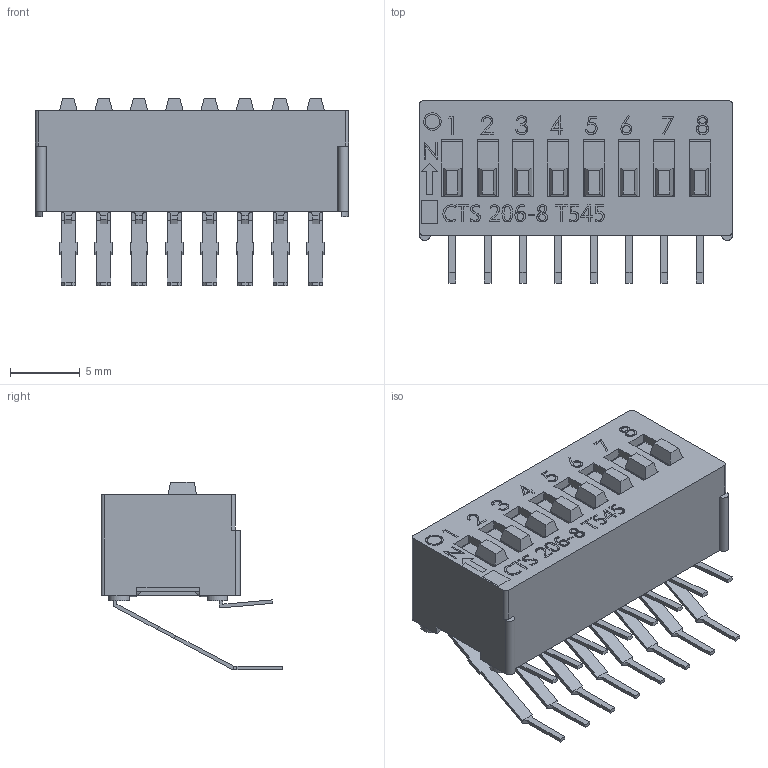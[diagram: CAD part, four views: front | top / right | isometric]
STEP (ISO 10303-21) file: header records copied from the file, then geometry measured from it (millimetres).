
FILE_DESCRIPTION (( 'STEP AP214' ), '1' );
FILE_NAME ('206-8RA.STEP', '2019-05-24T06:58:51', ( '' ), ( '' ), 'SwSTEP 2.0', 'SolidWorks 2019', '' );
FILE_SCHEMA (( 'AUTOMOTIVE_DESIGN' ));
Length unit declared in the file: millimetre
Products named in the file (4): 206-8RA pole assembly; 206-40-238-40-01(SPST-RA); 206-8RA; 206-56-014-35-01
Assembly tree (10 placements, depth 2):
  206-8RA
    206-40-238-40-01(SPST-RA)
    206-56-014-35-01  x8
    206-8RA pole assembly
Bounding box: 22.5 x 13.07 x 13.47 mm (x, y, z)
Volume: 1002 mm3; surface area: 3184 mm2
Topology: 10 solids, 10 shells, 985 faces, 2679 edges, 1772 vertices
Faces by surface type: plane 739, bspline 142, cylinder 104
Entity records: 33904 total; most frequent: CARTESIAN_POINT 12920, ORIENTED_EDGE 3944, DIRECTION 2962, EDGE_CURVE 1972, VECTOR 1586, LINE 1586, VERTEX_POINT 1310, EDGE_LOOP 788
